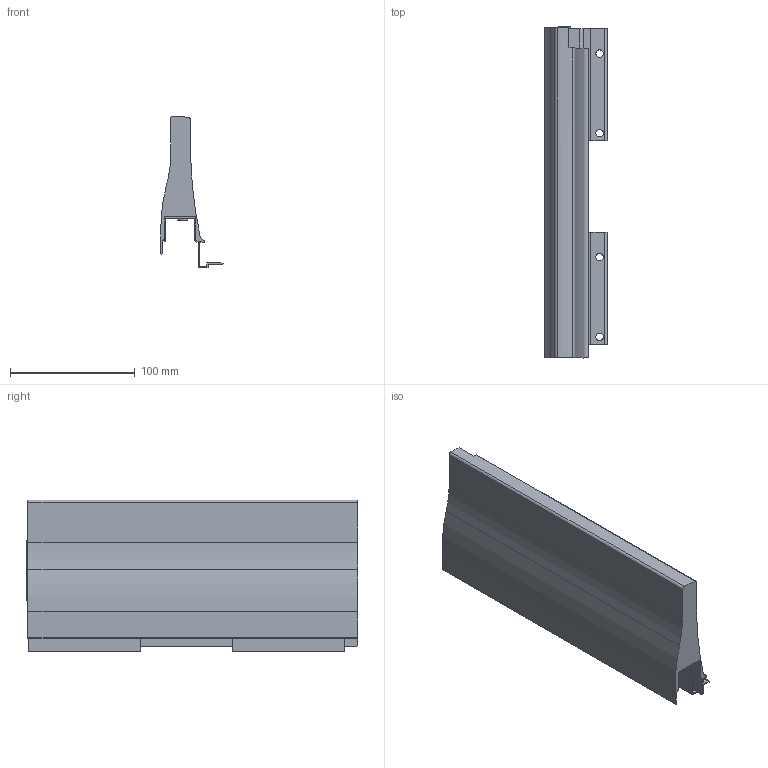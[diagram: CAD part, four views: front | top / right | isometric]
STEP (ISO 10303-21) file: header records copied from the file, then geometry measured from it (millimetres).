
FILE_DESCRIPTION (( 'STEP AP214' ), '1' );
FILE_NAME ('XP Standard Dekorseite H127 NL275 LI .step', '2010-09-21T09:46:20', ( 'grass' ), ( '' ), 'SwSTEP 2.0', 'SolidWorks 2010', '' );
FILE_SCHEMA (( 'AUTOMOTIVE_DESIGN' ));
Length unit declared in the file: millimetre
Products named in the file (1): XP Standard Dekorseite H127 NL275 LI 
Bounding box: 50.01 x 266.5 x 122 mm (x, y, z)
Volume: 458785.2 mm3; surface area: 108785.1 mm2
Topology: 1 solids, 1 shells, 107 faces, 312 edges, 204 vertices
Faces by surface type: plane 81, cylinder 26
Entity records: 3562 total; most frequent: CARTESIAN_POINT 624, ORIENTED_EDGE 624, DIRECTION 582, EDGE_CURVE 312, LINE 258, VECTOR 258, VERTEX_POINT 204, AXIS2_PLACEMENT_3D 162
